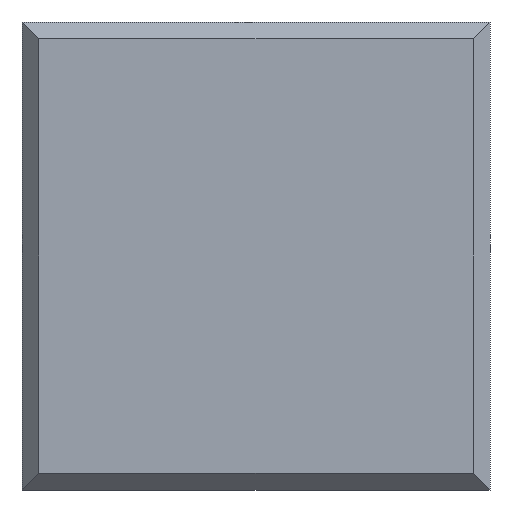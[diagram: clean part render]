
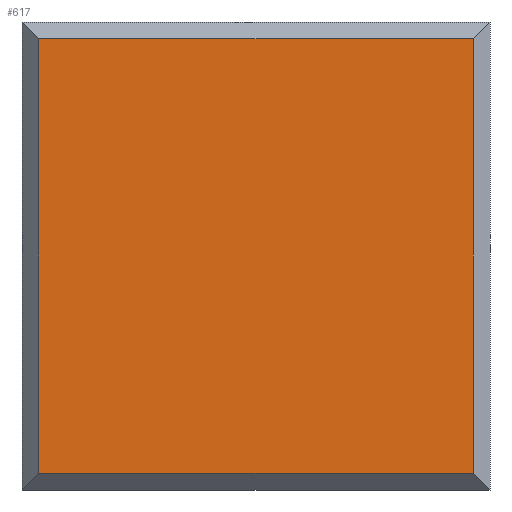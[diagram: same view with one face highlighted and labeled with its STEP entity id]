
A CAD part, front view. The second image highlights one B-rep face of the part: STEP entity #617.
In plain terms, the highlighted planar face has unit normal (0, -1, 0).
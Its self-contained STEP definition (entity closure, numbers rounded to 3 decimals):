
#4 = CARTESIAN_POINT ( 'NONE',  ( -13., -10., 13. ) ) ;
#16 = EDGE_LOOP ( 'NONE', ( #660, #270, #286, #775 ) ) ;
#57 = EDGE_CURVE ( 'NONE', #181, #511, #466, .T. ) ;
#63 = AXIS2_PLACEMENT_3D ( 'NONE', #507, #367, #355 ) ;
#101 = VECTOR ( 'NONE', #809, 1000. ) ;
#107 = LINE ( 'NONE', #4, #101 ) ;
#118 = CARTESIAN_POINT ( 'NONE',  ( 14., -10., -13. ) ) ;
#181 = VERTEX_POINT ( 'NONE', #455 ) ;
#223 = EDGE_CURVE ( 'NONE', #511, #802, #727, .T. ) ;
#270 = ORIENTED_EDGE ( 'NONE', *, *, #360, .T. ) ;
#280 = VECTOR ( 'NONE', #821, 1000. ) ;
#286 = ORIENTED_EDGE ( 'NONE', *, *, #640, .F. ) ;
#288 = PLANE ( 'NONE',  #63 ) ;
#311 = VECTOR ( 'NONE', #885, 1000. ) ;
#336 = LINE ( 'NONE', #118, #311 ) ;
#342 = CARTESIAN_POINT ( 'NONE',  ( 13., -10., 14. ) ) ;
#348 = DIRECTION ( 'NONE',  ( 0., 0., -1. ) ) ;
#355 = DIRECTION ( 'NONE',  ( -1., 0., 0. ) ) ;
#360 = EDGE_CURVE ( 'NONE', #181, #432, #107, .T. ) ;
#367 = DIRECTION ( 'NONE',  ( 0., -1., 0. ) ) ;
#382 = FACE_OUTER_BOUND ( 'NONE', #16, .T. ) ;
#432 = VERTEX_POINT ( 'NONE', #692 ) ;
#455 = CARTESIAN_POINT ( 'NONE',  ( -13., -10., 13. ) ) ;
#466 = LINE ( 'NONE', #819, #280 ) ;
#489 = CARTESIAN_POINT ( 'NONE',  ( 13., -10., 13. ) ) ;
#507 = CARTESIAN_POINT ( 'NONE',  ( 13., -10., 13. ) ) ;
#511 = VERTEX_POINT ( 'NONE', #489 ) ;
#547 = VECTOR ( 'NONE', #348, 1000. ) ;
#617 = ADVANCED_FACE ( 'NONE', ( #382 ), #288, .T. ) ;
#640 = EDGE_CURVE ( 'NONE', #802, #432, #336, .T. ) ;
#660 = ORIENTED_EDGE ( 'NONE', *, *, #57, .F. ) ;
#692 = CARTESIAN_POINT ( 'NONE',  ( -13., -10., -13. ) ) ;
#727 = LINE ( 'NONE', #342, #547 ) ;
#775 = ORIENTED_EDGE ( 'NONE', *, *, #223, .F. ) ;
#802 = VERTEX_POINT ( 'NONE', #820 ) ;
#809 = DIRECTION ( 'NONE',  ( 0., 0., -1. ) ) ;
#819 = CARTESIAN_POINT ( 'NONE',  ( 14., -10., 13. ) ) ;
#820 = CARTESIAN_POINT ( 'NONE',  ( 13., -10., -13. ) ) ;
#821 = DIRECTION ( 'NONE',  ( 1., 0., 0. ) ) ;
#885 = DIRECTION ( 'NONE',  ( -1., 0., 0. ) ) ;
